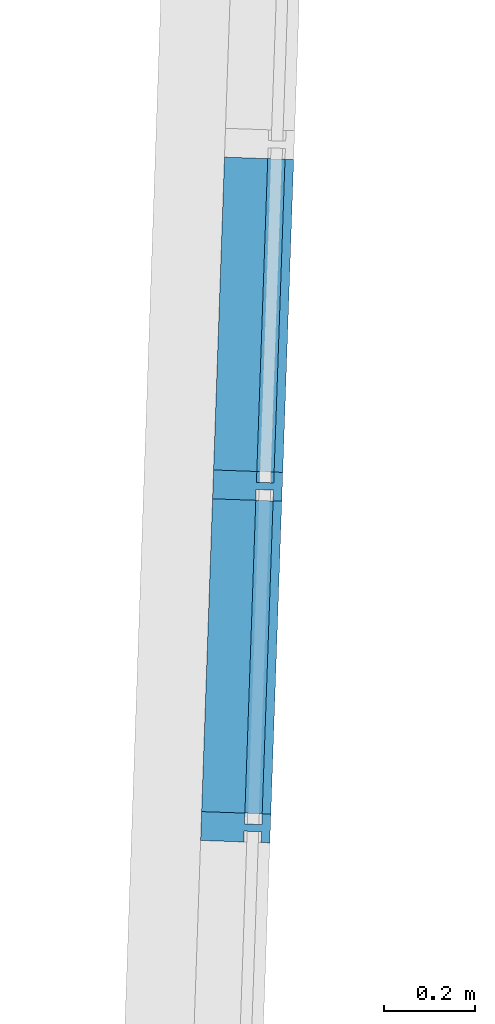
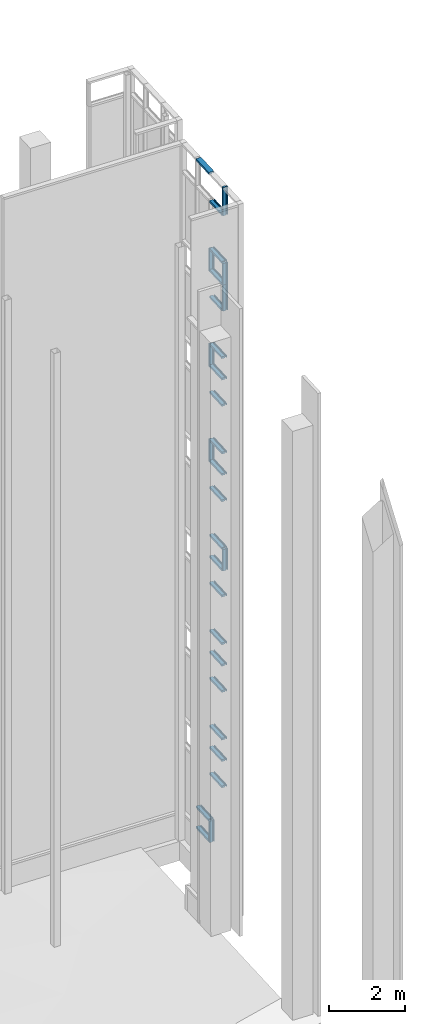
# One storey, part 15 of 44: 30 members, 1 element without a shape of its own.
"""IFC2X3 building model written with IfcOpenShell, lengths in feet."""

import ifcopenshell
import ifcopenshell.guid

model = None  # the IFC model being written
_history = None  # IfcOwnerHistory: only IFC2X3 demands one
_inside = {}  # id of a spatial element -> (the spatial element, [elements in it])
_under = {}  # id of a project, library or spatial element -> (it, [spatial elements below it])
_declared = {}  # id of a project -> (the project, [libraries it declares])
_typed = {}  # id of a type object -> (the type object, [elements of that type])
_made_of = {}  # id of a material, layer set ... -> (it, [elements and type objects made of it])


def new_model(schema):
    """Start an empty IFC model of exactly this schema.

    Asked for "IFC4X3", IfcOpenShell would pick the latest addendum, in which some entities
    have other attributes; the version numbers below select the first issue.
    IFC2X3 requires an IfcOwnerHistory on every rooted entity: one is made here for all.
    """
    global model, _history
    if schema == "IFC4X3":
        model = ifcopenshell.file(schema_version=(4, 3, 0, 0))
    else:
        model = ifcopenshell.file(schema=schema)
    _inside.clear()
    _under.clear()
    _declared.clear()
    _typed.clear()
    _made_of.clear()
    _history = None
    if model.schema == "IFC2X3":
        org = make("IfcOrganization", Name="unknown")
        user = make(
            "IfcPersonAndOrganization",
            ThePerson=make("IfcPerson", FamilyName="unknown"),
            TheOrganization=org,
        )
        app = make(
            "IfcApplication",
            ApplicationDeveloper=org,
            Version="unknown",
            ApplicationFullName="unknown",
            ApplicationIdentifier="unknown",
        )
        _history = make(
            "IfcOwnerHistory",
            OwningUser=user,
            OwningApplication=app,
            ChangeAction="ADDED",
            CreationDate=0,
        )
    return model


def make(cls, **values):
    """One entity of the class cls with the attributes given. An attribute that is None is left unset."""
    return model.create_entity(
        cls, **{name: value for name, value in values.items() if value is not None}
    )


def entity(cls, *values):
    """Any entity or typed value of the class cls, its attributes in the order of the schema. None: left unset."""
    e = model.create_entity(cls)
    for i, value in enumerate(values):
        if value is not None:
            e[i] = value
    return e


def rooted(cls, **values):
    """An entity with a GlobalId (a new one), such as an element, a storey or a relation."""
    return make(cls, GlobalId=ifcopenshell.guid.new(), OwnerHistory=_history, **values)


def si_unit(unit_type, name, prefix=None):
    """IfcSIUnit, for example si_unit("LENGTHUNIT", "METRE", prefix="MILLI")."""
    return make("IfcSIUnit", UnitType=unit_type, Prefix=prefix, Name=name)


def converted_unit(unit_type, name, factor, base, dimensions=None, offset=None):
    """IfcConversionBasedUnit, such as the inch: factor (a typed value) times the base unit."""
    return make(
        "IfcConversionBasedUnit"
        if offset is None
        else "IfcConversionBasedUnitWithOffset",
        ConversionOffset=offset,
        Dimensions=None
        if dimensions is None
        else entity("IfcDimensionalExponents", *dimensions),
        UnitType=unit_type,
        Name=name,
        ConversionFactor=make(
            "IfcMeasureWithUnit", ValueComponent=factor, UnitComponent=base
        ),
    )


def derived_unit(unit_type, elements):
    """IfcDerivedUnit: a product of units, each with its exponent."""
    return make(
        "IfcDerivedUnit",
        Elements=[
            make("IfcDerivedUnitElement", Unit=unit, Exponent=power)
            for unit, power in elements
        ],
        UnitType=unit_type,
    )


def assignment(units):
    """IfcUnitAssignment: the units of a project."""
    return None if units is None else make("IfcUnitAssignment", Units=units)


def point(xyz):
    """IfcCartesianPoint."""
    return None if xyz is None else make("IfcCartesianPoint", Coordinates=xyz)


def direction(xyz):
    """IfcDirection."""
    return None if xyz is None else make("IfcDirection", DirectionRatios=xyz)


def frame(location, z_axis=None, x_axis=None):
    """IfcAxis2Placement3D, a coordinate frame: its origin and axes. An axis left out is left unset."""
    return make(
        "IfcAxis2Placement3D",
        Location=point(location),
        Axis=direction(z_axis),
        RefDirection=direction(x_axis),
    )


def origin():
    """The frame at (0, 0, 0) with its axes left unset."""
    return frame((0.0, 0.0, 0.0))


def place(relative_to, where):
    """IfcLocalPlacement: puts the frame where relative to a parent placement (None: the world)."""
    return make(
        "IfcLocalPlacement", PlacementRelTo=relative_to, RelativePlacement=where
    )


def context(
    kind, dimensions, precision=None, world=None, true_north=None, identifier=None
):
    """IfcGeometricRepresentationContext, for example the 3D "Model" context."""
    return make(
        "IfcGeometricRepresentationContext",
        ContextIdentifier=identifier,
        ContextType=kind,
        CoordinateSpaceDimension=dimensions,
        Precision=precision,
        WorldCoordinateSystem=world,
        TrueNorth=true_north,
    )


def subcontext(parent, identifier, kind, view, scale=None):
    """IfcGeometricRepresentationSubContext, for example "Body" below "Model"."""
    return make(
        "IfcGeometricRepresentationSubContext",
        ContextIdentifier=identifier,
        ContextType=kind,
        ParentContext=parent,
        TargetScale=scale,
        TargetView=view,
    )


def project(units=None, contexts=None):
    """IfcProject with its units and contexts."""
    return rooted(
        "IfcProject",
        Name="project",
        RepresentationContexts=contexts,
        UnitsInContext=assignment(units),
    )


def spatial(cls, under=None, at=None, **own):
    """A site, building, storey or space (cls), placed at a placement, below another one or the project."""
    s = rooted(cls, ObjectPlacement=at, **own)
    if under is not None:
        _under.setdefault(under.id(), (under, []))[1].append(s)
    return s


def polyline(points):
    """IfcPolyline through the points."""
    return make("IfcPolyline", Points=[point(p) for p in points])


def outline(outer, holes=None, kind="AREA"):
    """IfcArbitraryClosedProfileDef: a profile drawn as a closed curve; with holes, ...WithVoids."""
    if holes is None:
        return make("IfcArbitraryClosedProfileDef", ProfileType=kind, OuterCurve=outer)
    return make(
        "IfcArbitraryProfileDefWithVoids",
        ProfileType=kind,
        OuterCurve=outer,
        InnerCurves=holes,
    )


def extrude(swept, where, along, depth):
    """IfcExtrudedAreaSolid: the profile swept, set in the frame where, extruded along a direction by depth."""
    return make(
        "IfcExtrudedAreaSolid",
        SweptArea=swept,
        Position=where,
        ExtrudedDirection=direction(along),
        Depth=depth,
    )


def shape(context_of_items, identifier, shape_type, items):
    """IfcShapeRepresentation: the items that make up one representation, for example the "Body"."""
    return make(
        "IfcShapeRepresentation",
        ContextOfItems=context_of_items,
        RepresentationIdentifier=identifier,
        RepresentationType=shape_type,
        Items=items,
    )


def material(Name=None, Category=None):
    """IfcMaterial."""
    return make("IfcMaterial", Name=Name, Category=Category)


def made_of(thing, what):
    """Note that an element or type object is made of a material, layer set ...; save() writes the relation."""
    if what is not None:
        _made_of.setdefault(what.id(), (what, []))[1].append(thing)
    return thing


def type_object(cls, material=None, **own):
    """A type object (cls), such as IfcWallType, which elements share."""
    return made_of(rooted(cls, **own), material)


def element(
    cls,
    number,
    at=None,
    inside=None,
    cuts=None,
    type_object=None,
    material=None,
    context=None,
    identifier="Body",
    shape_type=None,
    held_by="IfcProductDefinitionShape",
    body=None,
    shapes=None,
    **own,
):
    """One element of the class cls, such as IfcWall. Its Tag is "e" and its number.

    at: its placement. inside: the storey or other place that contains it. cuts: it is an
    opening in that element (IfcRelVoidsElement). A single representation is given by context,
    identifier, shape_type and body (its items); several are given by shapes. held_by: the class
    of the entity that holds the representations. save() writes the other relations.
    """
    e = rooted(cls, Tag="e%d" % number, ObjectPlacement=at, **own)
    if body is not None:
        shapes = [shape(context, identifier, shape_type, body)]
    if shapes is not None:
        e.Representation = make(held_by, Representations=shapes)
    if inside is not None:
        _inside.setdefault(inside.id(), (inside, []))[1].append(e)
    if cuts is not None:
        rooted(
            "IfcRelVoidsElement", RelatingBuildingElement=cuts, RelatedOpeningElement=e
        )
    if type_object is not None:
        _typed.setdefault(type_object.id(), (type_object, []))[1].append(e)
    return made_of(e, material)


def aggregate(whole, parts):
    """IfcRelAggregates: a whole, such as a stair, and the parts it consists of."""
    return rooted("IfcRelAggregates", RelatingObject=whole, RelatedObjects=parts)


def save(model, path):
    """Write the relations noted so far, then the file.

    IfcRelAggregates (storeys below a building ...), IfcRelContainedInSpatialStructure (elements
    in a storey), IfcRelDefinesByType, IfcRelAssociatesMaterial and IfcRelDeclares: one each for
    every whole, place, type object, material and project.
    """
    for whole, parts in _under.values():
        aggregate(whole, parts)
    for where, things in _inside.values():
        rooted(
            "IfcRelContainedInSpatialStructure",
            RelatedElements=things,
            RelatingStructure=where,
        )
    for kind, things in _typed.values():
        rooted("IfcRelDefinesByType", RelatedObjects=things, RelatingType=kind)
    for what, things in _made_of.values():
        rooted("IfcRelAssociatesMaterial", RelatedObjects=things, RelatingMaterial=what)
    for by, libraries in _declared.values():
        rooted("IfcRelDeclares", RelatingContext=by, RelatedDefinitions=libraries)
    model.write(path)


model = new_model("IFC2X3")

# Units and contexts
model_context = context("Model", 3, precision=0.0001, world=origin(), true_north=direction((0.999390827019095, 0.0348994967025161)))
body_context = subcontext(model_context, "Body", "Model", "MODEL_VIEW")
ifc_project = project(units=[converted_unit("LENGTHUNIT", "FOOT", entity("IfcRatioMeasure", 0.3048), si_unit("LENGTHUNIT", "METRE"), dimensions=[1, 0, 0, 0, 0, 0, 0]), converted_unit("AREAUNIT", "SQUARE FOOT", entity("IfcRatioMeasure", 0.09290304), si_unit("AREAUNIT", "SQUARE_METRE"), dimensions=[2, 0, 0, 0, 0, 0, 0]), converted_unit("VOLUMEUNIT", "CUBIC FOOT", entity("IfcRatioMeasure", 0.028316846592), si_unit("VOLUMEUNIT", "CUBIC_METRE"), dimensions=[3, 0, 0, 0, 0, 0, 0]), converted_unit("PLANEANGLEUNIT", "DEGREE", entity("IfcRatioMeasure", 0.0174532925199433), si_unit("PLANEANGLEUNIT", "RADIAN"), dimensions=[0, 0, 0, 0, 0, 0, 0]), si_unit("MASSUNIT", "GRAM", prefix="KILO"), si_unit("TIMEUNIT", "SECOND"), si_unit("FREQUENCYUNIT", "HERTZ"), si_unit("THERMODYNAMICTEMPERATUREUNIT", "DEGREE_CELSIUS"), derived_unit("THERMALTRANSMITTANCEUNIT", [(si_unit("MASSUNIT", "GRAM", prefix="KILO"), 1), (si_unit("THERMODYNAMICTEMPERATUREUNIT", "KELVIN"), -1), (si_unit("TIMEUNIT", "SECOND"), -3)]), derived_unit("VOLUMETRICFLOWRATEUNIT", [(si_unit("LENGTHUNIT", "METRE"), 3), (si_unit("TIMEUNIT", "SECOND"), -1)]), si_unit("ELECTRICCURRENTUNIT", "AMPERE"), si_unit("ELECTRICVOLTAGEUNIT", "VOLT"), si_unit("POWERUNIT", "WATT"), si_unit("FORCEUNIT", "NEWTON"), si_unit("ILLUMINANCEUNIT", "LUX"), si_unit("LUMINOUSFLUXUNIT", "LUMEN"), si_unit("LUMINOUSINTENSITYUNIT", "CANDELA"), derived_unit("USERDEFINED", [(si_unit("MASSUNIT", "GRAM", prefix="KILO"), -1), (si_unit("LENGTHUNIT", "METRE"), -2), (si_unit("TIMEUNIT", "SECOND"), 3), (si_unit("LUMINOUSFLUXUNIT", "LUMEN"), 1)]), derived_unit("LINEARVELOCITYUNIT", [(si_unit("LENGTHUNIT", "METRE"), 1), (si_unit("TIMEUNIT", "SECOND"), -1)]), si_unit("PRESSUREUNIT", "PASCAL"), derived_unit("USERDEFINED", [(si_unit("LENGTHUNIT", "METRE"), -2), (si_unit("MASSUNIT", "GRAM", prefix="KILO"), 1), (si_unit("TIMEUNIT", "SECOND"), -2)])], contexts=[model_context])

# Site, building, storey
site_placement = place(None, frame((892.518771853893, 322.38689265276, 0.00393700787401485), z_axis=(0.0, 0.0, 1.0), x_axis=(0.0348994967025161, 0.999390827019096, 0.0)))
site = spatial("IfcSite", under=ifc_project, at=site_placement, Name="Default", CompositionType="ELEMENT")
building_placement = place(site_placement, origin())
building = spatial("IfcBuilding", under=site, at=building_placement, CompositionType="ELEMENT")
storey_placement = place(building_placement, frame((0.0, 0.0, 544.75)))
storey = spatial("IfcBuildingStorey", under=building, at=storey_placement, Name="Exist Garage - Ground Level", CompositionType="ELEMENT", Elevation=544.75)

# Curtain wall, members
curtain_wall_type = type_object("IfcCurtainWallType", Name="Curtain Wall:(Existing) Curtainwall - Blank", PredefinedType="NOTDEFINED")
curtain_wall_placement = place(storey_placement, frame((0.0, 0.0, -544.75)))
curtain_wall = element("IfcCurtainWall", 1, at=curtain_wall_placement, inside=storey, type_object=curtain_wall_type, Name="Curtain Wall:(Existing) Curtainwall - Blank", ObjectType="Curtain Wall:(Existing) Curtainwall - Blank")
ifc_material = material(Name="Metal - Aluminum")
member_1_placement = place(curtain_wall_placement, frame((0.0, 0.0, 544.75)))
member_1 = element("IfcMember", 2, at=member_1_placement, material=ifc_material, Name="Curtain Wall:(Existing) Curtainwall - Blank", ObjectType="Curtain Wall:(Existing) Curtainwall - Blank", context=body_context, shape_type="SweptSolid", body=[
    extrude(outline(polyline([(-0.13671875, -0.187500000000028), (0.0716145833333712, -0.187500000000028), (0.0716145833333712, -0.125000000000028), (-0.00651041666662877, -0.125000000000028), (-0.00651041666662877, 0.0), (0.0716145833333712, 0.0), (0.0716145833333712, 0.312499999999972), (-0.13671875, 0.312499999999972), (-0.13671875, -0.187500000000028)])), frame((96.6564634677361, 232.451453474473, 72.3216145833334), z_axis=(1.0, 0.0, 0.0), x_axis=(0.0, 0.0, -1.0)), (0.0, 0.0, 1.0), 2.36458333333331),
])
member_2_placement = place(curtain_wall_placement, frame((0.0, 0.0, 544.75)))
member_2 = element("IfcMember", 3, at=member_2_placement, material=ifc_material, Name="Curtain Wall:(Existing) Curtainwall - Blank", ObjectType="Curtain Wall:(Existing) Curtainwall - Blank", context=body_context, shape_type="SweptSolid", body=[
    extrude(outline(polyline([(-0.0716145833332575, -0.312499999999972), (0.136718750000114, -0.312499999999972), (0.136718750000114, 0.187500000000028), (-0.0716145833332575, 0.187500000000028), (-0.0716145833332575, 0.125000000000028), (0.00651041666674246, 0.125000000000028), (0.00651041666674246, 0.0), (-0.0716145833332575, 0.0), (-0.0716145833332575, -0.312499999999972)])), frame((99.0210468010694, 232.451453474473, 2.38671875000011), z_axis=(-1.0, 0.0, 0.0), x_axis=(0.0, 0.0, -1.0)), (0.0, 0.0, 1.0), 2.26041666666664),
])
member_3_placement = place(curtain_wall_placement, frame((0.0, 0.0, 544.75)))
member_3 = element("IfcMember", 4, at=member_3_placement, material=ifc_material, Name="Curtain Wall:(Existing) Curtainwall - Blank", ObjectType="Curtain Wall:(Existing) Curtainwall - Blank", context=body_context, shape_type="SweptSolid", body=[
    extrude(outline(polyline([(-0.104166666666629, -0.166666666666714), (0.104166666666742, -0.166666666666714), (0.104166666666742, -0.104166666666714), (0.0260416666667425, -0.104166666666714), (0.0260416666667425, 0.020833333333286), (0.104166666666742, 0.020833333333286), (0.104166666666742, 0.333333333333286), (-0.104166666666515, 0.333333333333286), (-0.104166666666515, 0.020833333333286), (-0.0260416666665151, 0.020833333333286), (-0.0260416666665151, -0.104166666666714), (-0.104166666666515, -0.104166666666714), (-0.104166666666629, -0.166666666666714)])), frame((96.7606301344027, 232.43062014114, 4.50000000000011), z_axis=(1.0, 0.0, 0.0), x_axis=(0.0, 0.0, -1.0)), (0.0, 0.0, 1.0), 2.26041666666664),
])
member_4_placement = place(curtain_wall_placement, frame((0.0, 0.0, 544.75)))
member_4 = element("IfcMember", 5, at=member_4_placement, material=ifc_material, Name="Curtain Wall:(Existing) Curtainwall - Blank", ObjectType="Curtain Wall:(Existing) Curtainwall - Blank", context=body_context, shape_type="SweptSolid", body=[
    extrude(outline(polyline([(-0.104166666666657, -0.333333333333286), (0.104166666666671, -0.333333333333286), (0.104166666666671, -0.020833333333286), (0.0260416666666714, -0.020833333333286), (0.0260416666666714, 0.104166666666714), (0.104166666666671, 0.104166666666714), (0.104166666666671, 0.166666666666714), (-0.104166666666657, 0.166666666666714), (-0.104166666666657, 0.104166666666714), (-0.0260416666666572, 0.104166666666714), (-0.0260416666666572, -0.020833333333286), (-0.104166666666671, -0.020833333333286), (-0.104166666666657, -0.333333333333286)])), frame((96.6564634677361, 232.43062014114, 52.1458333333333), z_axis=(0.0, 0.0, 1.0), x_axis=(-1.0, 0.0, 0.0)), (0.0, 0.0, 1.0), 2.35416666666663),
])
member_5_placement = place(curtain_wall_placement, frame((0.0, 0.0, 544.75)))
member_5 = element("IfcMember", 6, at=member_5_placement, material=ifc_material, Name="Curtain Wall:(Existing) Curtainwall - Blank", ObjectType="Curtain Wall:(Existing) Curtainwall - Blank", context=body_context, shape_type="SweptSolid", body=[
    extrude(outline(polyline([(-0.104166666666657, -0.333333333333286), (0.104166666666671, -0.333333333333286), (0.104166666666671, -0.020833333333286), (0.0260416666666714, -0.020833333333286), (0.0260416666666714, 0.104166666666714), (0.104166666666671, 0.104166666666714), (0.104166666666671, 0.166666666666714), (-0.104166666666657, 0.166666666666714), (-0.104166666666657, 0.104166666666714), (-0.0260416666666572, 0.104166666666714), (-0.0260416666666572, -0.020833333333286), (-0.104166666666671, -0.020833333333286), (-0.104166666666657, -0.333333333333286)])), frame((96.6564634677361, 232.43062014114, 62.1458333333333), z_axis=(0.0, 0.0, 1.0), x_axis=(-1.0, 0.0, 0.0)), (0.0, 0.0, 1.0), 2.35416666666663),
])
member_6_placement = place(curtain_wall_placement, frame((0.0, 0.0, 544.75)))
member_6 = element("IfcMember", 7, at=member_6_placement, material=ifc_material, Name="Curtain Wall:(Existing) Curtainwall - Blank", ObjectType="Curtain Wall:(Existing) Curtainwall - Blank", context=body_context, shape_type="SweptSolid", body=[
    extrude(outline(polyline([(-0.104166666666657, -0.333333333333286), (0.104166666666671, -0.333333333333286), (0.104166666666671, -0.020833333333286), (0.0260416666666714, -0.020833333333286), (0.0260416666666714, 0.104166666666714), (0.104166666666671, 0.104166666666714), (0.104166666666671, 0.166666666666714), (-0.104166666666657, 0.166666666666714), (-0.104166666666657, 0.104166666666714), (-0.0260416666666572, 0.104166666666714), (-0.0260416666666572, -0.020833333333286), (-0.104166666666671, -0.020833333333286), (-0.104166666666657, -0.333333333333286)])), frame((96.6564634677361, 232.43062014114, 42.1458333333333), z_axis=(0.0, 0.0, 1.0), x_axis=(-1.0, 0.0, 0.0)), (0.0, 0.0, 1.0), 2.35416666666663),
])
member_7_placement = place(curtain_wall_placement, frame((0.0, 0.0, 544.75)))
member_7 = element("IfcMember", 8, at=member_7_placement, material=ifc_material, Name="Curtain Wall:(Existing) Curtainwall - Blank", ObjectType="Curtain Wall:(Existing) Curtainwall - Blank", context=body_context, shape_type="SweptSolid", body=[
    extrude(outline(polyline([(-0.104166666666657, -0.333333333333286), (0.104166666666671, -0.333333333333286), (0.104166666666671, -0.020833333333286), (0.0260416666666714, -0.020833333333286), (0.0260416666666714, 0.104166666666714), (0.104166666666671, 0.104166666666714), (0.104166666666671, 0.166666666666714), (-0.104166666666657, 0.166666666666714), (-0.104166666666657, 0.104166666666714), (-0.0260416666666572, 0.104166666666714), (-0.0260416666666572, -0.020833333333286), (-0.104166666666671, -0.020833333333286), (-0.104166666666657, -0.333333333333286)])), frame((96.6564634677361, 232.43062014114, 2.25), z_axis=(0.0, 0.0, 1.0), x_axis=(-1.0, 0.0, 0.0)), (0.0, 0.0, 1.0), 2.25),
])
member_8_placement = place(curtain_wall_placement, frame((0.0, 0.0, 544.75)))
member_8 = element("IfcMember", 9, at=member_8_placement, material=ifc_material, Name="Curtain Wall:(Existing) Curtainwall - Blank", ObjectType="Curtain Wall:(Existing) Curtainwall - Blank", context=body_context, shape_type="SweptSolid", body=[
    extrude(outline(polyline([(-0.104166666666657, -0.333333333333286), (0.104166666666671, -0.333333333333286), (0.104166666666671, -0.020833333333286), (0.0260416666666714, -0.020833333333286), (0.0260416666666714, 0.104166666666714), (0.104166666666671, 0.104166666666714), (0.104166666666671, 0.166666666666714), (-0.104166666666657, 0.166666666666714), (-0.104166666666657, 0.104166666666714), (-0.0260416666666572, 0.104166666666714), (-0.0260416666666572, -0.020833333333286), (-0.104166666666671, -0.020833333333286), (-0.104166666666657, -0.333333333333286)])), frame((94.1877134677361, 232.43062014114, 32.25), z_axis=(0.0, 0.0, 1.0), x_axis=(-1.0, 0.0, 0.0)), (0.0, 0.0, 1.0), 2.25),
])
member_9_placement = place(curtain_wall_placement, frame((0.0, 0.0, 544.75)))
member_9 = element("IfcMember", 10, at=member_9_placement, material=ifc_material, Name="Curtain Wall:(Existing) Curtainwall - Blank", ObjectType="Curtain Wall:(Existing) Curtainwall - Blank", context=body_context, shape_type="SweptSolid", body=[
    extrude(outline(polyline([(-0.104166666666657, -0.333333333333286), (0.104166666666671, -0.333333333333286), (0.104166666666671, -0.020833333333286), (0.0260416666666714, -0.020833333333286), (0.0260416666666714, 0.104166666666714), (0.104166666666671, 0.104166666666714), (0.104166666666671, 0.166666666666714), (-0.104166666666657, 0.166666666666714), (-0.104166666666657, 0.104166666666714), (-0.0260416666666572, 0.104166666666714), (-0.0260416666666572, -0.020833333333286), (-0.104166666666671, -0.020833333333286), (-0.104166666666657, -0.333333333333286)])), frame((94.1877134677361, 232.43062014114, 59.5), z_axis=(0.0, 0.0, 1.0), x_axis=(-1.0, 0.0, 0.0)), (0.0, 0.0, 1.0), 2.75),
])
member_10_placement = place(curtain_wall_placement, frame((0.0, 0.0, 544.75)))
member_10 = element("IfcMember", 11, at=member_10_placement, material=ifc_material, Name="Curtain Wall:(Existing) Curtainwall - Blank", ObjectType="Curtain Wall:(Existing) Curtainwall - Blank", context=body_context, shape_type="SweptSolid", body=[
    extrude(outline(polyline([(-0.104166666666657, -0.333333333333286), (0.104166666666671, -0.333333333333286), (0.104166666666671, -0.020833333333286), (0.0260416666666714, -0.020833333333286), (0.0260416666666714, 0.104166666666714), (0.104166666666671, 0.104166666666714), (0.104166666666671, 0.166666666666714), (-0.104166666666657, 0.166666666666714), (-0.104166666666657, 0.104166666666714), (-0.0260416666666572, 0.104166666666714), (-0.0260416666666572, -0.020833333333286), (-0.104166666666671, -0.020833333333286), (-0.104166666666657, -0.333333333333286)])), frame((94.1877134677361, 232.43062014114, 62.25), z_axis=(0.0, 0.0, 1.0), x_axis=(-1.0, 0.0, 0.0)), (0.0, 0.0, 1.0), 2.25),
])
member_11_placement = place(curtain_wall_placement, frame((0.0, 0.0, 544.75)))
member_11 = element("IfcMember", 12, at=member_11_placement, material=ifc_material, Name="Curtain Wall:(Existing) Curtainwall - Blank", ObjectType="Curtain Wall:(Existing) Curtainwall - Blank", context=body_context, shape_type="SweptSolid", body=[
    extrude(outline(polyline([(-0.104166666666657, -0.333333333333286), (0.104166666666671, -0.333333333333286), (0.104166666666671, -0.020833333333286), (0.0260416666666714, -0.020833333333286), (0.0260416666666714, 0.104166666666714), (0.104166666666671, 0.104166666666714), (0.104166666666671, 0.166666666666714), (-0.104166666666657, 0.166666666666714), (-0.104166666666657, 0.104166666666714), (-0.0260416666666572, 0.104166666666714), (-0.0260416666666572, -0.020833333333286), (-0.104166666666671, -0.020833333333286), (-0.104166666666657, -0.333333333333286)])), frame((94.1877134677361, 232.43062014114, 69.5), z_axis=(0.0, 0.0, 1.0), x_axis=(-1.0, 0.0, 0.0)), (0.0, 0.0, 1.0), 2.95833333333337),
])
member_12_placement = place(curtain_wall_placement, frame((0.0, 0.0, 544.75)))
member_12 = element("IfcMember", 13, at=member_12_placement, material=ifc_material, Name="Curtain Wall:(Existing) Curtainwall - Blank", ObjectType="Curtain Wall:(Existing) Curtainwall - Blank", context=body_context, shape_type="SweptSolid", body=[
    extrude(outline(polyline([(-0.104166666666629, -0.166666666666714), (0.104166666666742, -0.166666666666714), (0.104166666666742, -0.104166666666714), (0.0260416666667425, -0.104166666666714), (0.0260416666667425, 0.020833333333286), (0.104166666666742, 0.020833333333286), (0.104166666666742, 0.333333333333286), (-0.104166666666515, 0.333333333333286), (-0.104166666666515, 0.020833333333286), (-0.0260416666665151, 0.020833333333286), (-0.0260416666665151, -0.104166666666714), (-0.104166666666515, -0.104166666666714), (-0.104166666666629, -0.166666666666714)])), frame((94.2918801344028, 232.43062014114, 9.50000000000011), z_axis=(1.0, 0.0, 0.0), x_axis=(0.0, 0.0, -1.0)), (0.0, 0.0, 1.0), 2.26041666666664),
])
member_13_placement = place(curtain_wall_placement, frame((0.0, 0.0, 544.75)))
member_13 = element("IfcMember", 14, at=member_13_placement, material=ifc_material, Name="Curtain Wall:(Existing) Curtainwall - Blank", ObjectType="Curtain Wall:(Existing) Curtainwall - Blank", context=body_context, shape_type="SweptSolid", body=[
    extrude(outline(polyline([(-0.104166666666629, -0.166666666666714), (0.104166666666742, -0.166666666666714), (0.104166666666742, -0.104166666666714), (0.0260416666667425, -0.104166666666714), (0.0260416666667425, 0.020833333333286), (0.104166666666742, 0.020833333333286), (0.104166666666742, 0.333333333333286), (-0.104166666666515, 0.333333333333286), (-0.104166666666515, 0.020833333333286), (-0.0260416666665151, 0.020833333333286), (-0.0260416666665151, -0.104166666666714), (-0.104166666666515, -0.104166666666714), (-0.104166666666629, -0.166666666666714)])), frame((94.2918801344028, 232.43062014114, 12.2500000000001), z_axis=(1.0, 0.0, 0.0), x_axis=(0.0, 0.0, -1.0)), (0.0, 0.0, 1.0), 2.26041666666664),
])
member_14_placement = place(curtain_wall_placement, frame((0.0, 0.0, 544.75)))
member_14 = element("IfcMember", 15, at=member_14_placement, material=ifc_material, Name="Curtain Wall:(Existing) Curtainwall - Blank", ObjectType="Curtain Wall:(Existing) Curtainwall - Blank", context=body_context, shape_type="SweptSolid", body=[
    extrude(outline(polyline([(-0.104166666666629, -0.166666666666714), (0.104166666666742, -0.166666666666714), (0.104166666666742, -0.104166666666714), (0.0260416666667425, -0.104166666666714), (0.0260416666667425, 0.020833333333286), (0.104166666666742, 0.020833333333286), (0.104166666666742, 0.333333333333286), (-0.104166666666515, 0.333333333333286), (-0.104166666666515, 0.020833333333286), (-0.0260416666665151, 0.020833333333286), (-0.0260416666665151, -0.104166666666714), (-0.104166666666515, -0.104166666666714), (-0.104166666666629, -0.166666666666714)])), frame((94.2918801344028, 232.43062014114, 14.5000000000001), z_axis=(1.0, 0.0, 0.0), x_axis=(0.0, 0.0, -1.0)), (0.0, 0.0, 1.0), 2.26041666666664),
])
member_15_placement = place(curtain_wall_placement, frame((0.0, 0.0, 544.75)))
member_15 = element("IfcMember", 16, at=member_15_placement, material=ifc_material, Name="Curtain Wall:(Existing) Curtainwall - Blank", ObjectType="Curtain Wall:(Existing) Curtainwall - Blank", context=body_context, shape_type="SweptSolid", body=[
    extrude(outline(polyline([(-0.104166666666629, -0.166666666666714), (0.104166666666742, -0.166666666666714), (0.104166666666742, -0.104166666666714), (0.0260416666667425, -0.104166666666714), (0.0260416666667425, 0.020833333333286), (0.104166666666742, 0.020833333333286), (0.104166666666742, 0.333333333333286), (-0.104166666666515, 0.333333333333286), (-0.104166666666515, 0.020833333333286), (-0.0260416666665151, 0.020833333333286), (-0.0260416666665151, -0.104166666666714), (-0.104166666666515, -0.104166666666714), (-0.104166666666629, -0.166666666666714)])), frame((94.2918801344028, 232.43062014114, 19.5000000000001), z_axis=(1.0, 0.0, 0.0), x_axis=(0.0, 0.0, -1.0)), (0.0, 0.0, 1.0), 2.26041666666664),
])
member_16_placement = place(curtain_wall_placement, frame((0.0, 0.0, 544.75)))
member_16 = element("IfcMember", 17, at=member_16_placement, material=ifc_material, Name="Curtain Wall:(Existing) Curtainwall - Blank", ObjectType="Curtain Wall:(Existing) Curtainwall - Blank", context=body_context, shape_type="SweptSolid", body=[
    extrude(outline(polyline([(-0.104166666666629, -0.166666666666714), (0.104166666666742, -0.166666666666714), (0.104166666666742, -0.104166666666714), (0.0260416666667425, -0.104166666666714), (0.0260416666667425, 0.020833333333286), (0.104166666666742, 0.020833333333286), (0.104166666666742, 0.333333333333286), (-0.104166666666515, 0.333333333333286), (-0.104166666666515, 0.020833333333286), (-0.0260416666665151, 0.020833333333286), (-0.0260416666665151, -0.104166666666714), (-0.104166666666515, -0.104166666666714), (-0.104166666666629, -0.166666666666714)])), frame((94.2918801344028, 232.43062014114, 22.2500000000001), z_axis=(1.0, 0.0, 0.0), x_axis=(0.0, 0.0, -1.0)), (0.0, 0.0, 1.0), 2.26041666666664),
])
member_17_placement = place(curtain_wall_placement, frame((0.0, 0.0, 544.75)))
member_17 = element("IfcMember", 18, at=member_17_placement, material=ifc_material, Name="Curtain Wall:(Existing) Curtainwall - Blank", ObjectType="Curtain Wall:(Existing) Curtainwall - Blank", context=body_context, shape_type="SweptSolid", body=[
    extrude(outline(polyline([(-0.104166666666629, -0.166666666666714), (0.104166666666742, -0.166666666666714), (0.104166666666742, -0.104166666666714), (0.0260416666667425, -0.104166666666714), (0.0260416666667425, 0.020833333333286), (0.104166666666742, 0.020833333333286), (0.104166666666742, 0.333333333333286), (-0.104166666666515, 0.333333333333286), (-0.104166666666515, 0.020833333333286), (-0.0260416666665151, 0.020833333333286), (-0.0260416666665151, -0.104166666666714), (-0.104166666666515, -0.104166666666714), (-0.104166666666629, -0.166666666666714)])), frame((94.2918801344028, 232.43062014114, 24.5000000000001), z_axis=(1.0, 0.0, 0.0), x_axis=(0.0, 0.0, -1.0)), (0.0, 0.0, 1.0), 2.26041666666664),
])
member_18_placement = place(curtain_wall_placement, frame((0.0, 0.0, 544.75)))
member_18 = element("IfcMember", 19, at=member_18_placement, material=ifc_material, Name="Curtain Wall:(Existing) Curtainwall - Blank", ObjectType="Curtain Wall:(Existing) Curtainwall - Blank", context=body_context, shape_type="SweptSolid", body=[
    extrude(outline(polyline([(-0.104166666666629, -0.166666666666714), (0.104166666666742, -0.166666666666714), (0.104166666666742, -0.104166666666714), (0.0260416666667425, -0.104166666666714), (0.0260416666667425, 0.020833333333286), (0.104166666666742, 0.020833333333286), (0.104166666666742, 0.333333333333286), (-0.104166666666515, 0.333333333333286), (-0.104166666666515, 0.020833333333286), (-0.0260416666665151, 0.020833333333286), (-0.0260416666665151, -0.104166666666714), (-0.104166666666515, -0.104166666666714), (-0.104166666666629, -0.166666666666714)])), frame((94.2918801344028, 232.43062014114, 29.5000000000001), z_axis=(1.0, 0.0, 0.0), x_axis=(0.0, 0.0, -1.0)), (0.0, 0.0, 1.0), 2.26041666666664),
])
member_19_placement = place(curtain_wall_placement, frame((0.0, 0.0, 544.75)))
member_19 = element("IfcMember", 20, at=member_19_placement, material=ifc_material, Name="Curtain Wall:(Existing) Curtainwall - Blank", ObjectType="Curtain Wall:(Existing) Curtainwall - Blank", context=body_context, shape_type="SweptSolid", body=[
    extrude(outline(polyline([(-0.104166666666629, -0.166666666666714), (0.104166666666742, -0.166666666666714), (0.104166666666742, -0.104166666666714), (0.0260416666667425, -0.104166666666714), (0.0260416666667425, 0.020833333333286), (0.104166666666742, 0.020833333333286), (0.104166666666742, 0.333333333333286), (-0.104166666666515, 0.333333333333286), (-0.104166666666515, 0.020833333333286), (-0.0260416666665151, 0.020833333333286), (-0.0260416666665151, -0.104166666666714), (-0.104166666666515, -0.104166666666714), (-0.104166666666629, -0.166666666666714)])), frame((94.2918801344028, 232.43062014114, 32.2500000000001), z_axis=(1.0, 0.0, 0.0), x_axis=(0.0, 0.0, -1.0)), (0.0, 0.0, 1.0), 2.26041666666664),
])
member_20_placement = place(curtain_wall_placement, frame((0.0, 0.0, 544.75)))
member_20 = element("IfcMember", 21, at=member_20_placement, material=ifc_material, Name="Curtain Wall:(Existing) Curtainwall - Blank", ObjectType="Curtain Wall:(Existing) Curtainwall - Blank", context=body_context, shape_type="SweptSolid", body=[
    extrude(outline(polyline([(-0.104166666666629, -0.166666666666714), (0.104166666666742, -0.166666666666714), (0.104166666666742, -0.104166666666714), (0.0260416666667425, -0.104166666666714), (0.0260416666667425, 0.020833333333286), (0.104166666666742, 0.020833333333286), (0.104166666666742, 0.333333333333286), (-0.104166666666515, 0.333333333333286), (-0.104166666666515, 0.020833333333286), (-0.0260416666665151, 0.020833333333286), (-0.0260416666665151, -0.104166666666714), (-0.104166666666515, -0.104166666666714), (-0.104166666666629, -0.166666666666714)])), frame((94.2918801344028, 232.43062014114, 34.5000000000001), z_axis=(1.0, 0.0, 0.0), x_axis=(0.0, 0.0, -1.0)), (0.0, 0.0, 1.0), 2.26041666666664),
])
member_21_placement = place(curtain_wall_placement, frame((0.0, 0.0, 544.75)))
member_21 = element("IfcMember", 22, at=member_21_placement, material=ifc_material, Name="Curtain Wall:(Existing) Curtainwall - Blank", ObjectType="Curtain Wall:(Existing) Curtainwall - Blank", context=body_context, shape_type="SweptSolid", body=[
    extrude(outline(polyline([(-0.104166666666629, -0.166666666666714), (0.104166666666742, -0.166666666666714), (0.104166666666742, -0.104166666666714), (0.0260416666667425, -0.104166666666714), (0.0260416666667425, 0.020833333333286), (0.104166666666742, 0.020833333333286), (0.104166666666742, 0.333333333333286), (-0.104166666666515, 0.333333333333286), (-0.104166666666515, 0.020833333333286), (-0.0260416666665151, 0.020833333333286), (-0.0260416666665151, -0.104166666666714), (-0.104166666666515, -0.104166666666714), (-0.104166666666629, -0.166666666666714)])), frame((94.2918801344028, 232.43062014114, 39.5000000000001), z_axis=(1.0, 0.0, 0.0), x_axis=(0.0, 0.0, -1.0)), (0.0, 0.0, 1.0), 2.26041666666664),
])
member_22_placement = place(curtain_wall_placement, frame((0.0, 0.0, 544.75)))
member_22 = element("IfcMember", 23, at=member_22_placement, material=ifc_material, Name="Curtain Wall:(Existing) Curtainwall - Blank", ObjectType="Curtain Wall:(Existing) Curtainwall - Blank", context=body_context, shape_type="SweptSolid", body=[
    extrude(outline(polyline([(-0.104166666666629, -0.166666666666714), (0.104166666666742, -0.166666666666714), (0.104166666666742, -0.104166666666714), (0.0260416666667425, -0.104166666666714), (0.0260416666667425, 0.020833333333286), (0.104166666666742, 0.020833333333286), (0.104166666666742, 0.333333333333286), (-0.104166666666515, 0.333333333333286), (-0.104166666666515, 0.020833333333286), (-0.0260416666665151, 0.020833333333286), (-0.0260416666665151, -0.104166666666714), (-0.104166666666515, -0.104166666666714), (-0.104166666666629, -0.166666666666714)])), frame((94.2918801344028, 232.43062014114, 42.2500000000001), z_axis=(1.0, 0.0, 0.0), x_axis=(0.0, 0.0, -1.0)), (0.0, 0.0, 1.0), 2.26041666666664),
])
member_23_placement = place(curtain_wall_placement, frame((0.0, 0.0, 544.75)))
member_23 = element("IfcMember", 24, at=member_23_placement, material=ifc_material, Name="Curtain Wall:(Existing) Curtainwall - Blank", ObjectType="Curtain Wall:(Existing) Curtainwall - Blank", context=body_context, shape_type="SweptSolid", body=[
    extrude(outline(polyline([(-0.104166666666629, -0.166666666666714), (0.104166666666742, -0.166666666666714), (0.104166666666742, -0.104166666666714), (0.0260416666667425, -0.104166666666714), (0.0260416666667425, 0.020833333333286), (0.104166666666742, 0.020833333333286), (0.104166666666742, 0.333333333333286), (-0.104166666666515, 0.333333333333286), (-0.104166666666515, 0.020833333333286), (-0.0260416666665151, 0.020833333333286), (-0.0260416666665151, -0.104166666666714), (-0.104166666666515, -0.104166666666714), (-0.104166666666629, -0.166666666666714)])), frame((94.2918801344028, 232.43062014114, 44.5000000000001), z_axis=(1.0, 0.0, 0.0), x_axis=(0.0, 0.0, -1.0)), (0.0, 0.0, 1.0), 2.26041666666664),
])
member_24_placement = place(curtain_wall_placement, frame((0.0, 0.0, 544.75)))
member_24 = element("IfcMember", 25, at=member_24_placement, material=ifc_material, Name="Curtain Wall:(Existing) Curtainwall - Blank", ObjectType="Curtain Wall:(Existing) Curtainwall - Blank", context=body_context, shape_type="SweptSolid", body=[
    extrude(outline(polyline([(-0.104166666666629, -0.166666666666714), (0.104166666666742, -0.166666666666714), (0.104166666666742, -0.104166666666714), (0.0260416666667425, -0.104166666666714), (0.0260416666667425, 0.020833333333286), (0.104166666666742, 0.020833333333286), (0.104166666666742, 0.333333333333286), (-0.104166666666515, 0.333333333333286), (-0.104166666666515, 0.020833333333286), (-0.0260416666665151, 0.020833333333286), (-0.0260416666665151, -0.104166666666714), (-0.104166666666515, -0.104166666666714), (-0.104166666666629, -0.166666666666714)])), frame((94.2918801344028, 232.43062014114, 49.5000000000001), z_axis=(1.0, 0.0, 0.0), x_axis=(0.0, 0.0, -1.0)), (0.0, 0.0, 1.0), 2.26041666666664),
])
member_25_placement = place(curtain_wall_placement, frame((0.0, 0.0, 544.75)))
member_25 = element("IfcMember", 26, at=member_25_placement, material=ifc_material, Name="Curtain Wall:(Existing) Curtainwall - Blank", ObjectType="Curtain Wall:(Existing) Curtainwall - Blank", context=body_context, shape_type="SweptSolid", body=[
    extrude(outline(polyline([(-0.104166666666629, -0.166666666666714), (0.104166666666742, -0.166666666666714), (0.104166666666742, -0.104166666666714), (0.0260416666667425, -0.104166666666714), (0.0260416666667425, 0.020833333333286), (0.104166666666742, 0.020833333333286), (0.104166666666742, 0.333333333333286), (-0.104166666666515, 0.333333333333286), (-0.104166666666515, 0.020833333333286), (-0.0260416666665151, 0.020833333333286), (-0.0260416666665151, -0.104166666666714), (-0.104166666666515, -0.104166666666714), (-0.104166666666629, -0.166666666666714)])), frame((94.2918801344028, 232.43062014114, 52.2500000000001), z_axis=(1.0, 0.0, 0.0), x_axis=(0.0, 0.0, -1.0)), (0.0, 0.0, 1.0), 2.26041666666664),
])
member_26_placement = place(curtain_wall_placement, frame((0.0, 0.0, 544.75)))
member_26 = element("IfcMember", 27, at=member_26_placement, material=ifc_material, Name="Curtain Wall:(Existing) Curtainwall - Blank", ObjectType="Curtain Wall:(Existing) Curtainwall - Blank", context=body_context, shape_type="SweptSolid", body=[
    extrude(outline(polyline([(-0.104166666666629, -0.166666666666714), (0.104166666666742, -0.166666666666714), (0.104166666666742, -0.104166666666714), (0.0260416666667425, -0.104166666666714), (0.0260416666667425, 0.020833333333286), (0.104166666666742, 0.020833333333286), (0.104166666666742, 0.333333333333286), (-0.104166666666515, 0.333333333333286), (-0.104166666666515, 0.020833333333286), (-0.0260416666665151, 0.020833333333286), (-0.0260416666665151, -0.104166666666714), (-0.104166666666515, -0.104166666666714), (-0.104166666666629, -0.166666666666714)])), frame((94.2918801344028, 232.43062014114, 54.5000000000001), z_axis=(1.0, 0.0, 0.0), x_axis=(0.0, 0.0, -1.0)), (0.0, 0.0, 1.0), 2.26041666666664),
])
member_27_placement = place(curtain_wall_placement, frame((0.0, 0.0, 544.75)))
member_27 = element("IfcMember", 28, at=member_27_placement, material=ifc_material, Name="Curtain Wall:(Existing) Curtainwall - Blank", ObjectType="Curtain Wall:(Existing) Curtainwall - Blank", context=body_context, shape_type="SweptSolid", body=[
    extrude(outline(polyline([(-0.104166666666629, -0.166666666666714), (0.104166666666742, -0.166666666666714), (0.104166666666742, -0.104166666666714), (0.0260416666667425, -0.104166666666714), (0.0260416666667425, 0.020833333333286), (0.104166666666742, 0.020833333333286), (0.104166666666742, 0.333333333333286), (-0.104166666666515, 0.333333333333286), (-0.104166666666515, 0.020833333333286), (-0.0260416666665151, 0.020833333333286), (-0.0260416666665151, -0.104166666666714), (-0.104166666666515, -0.104166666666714), (-0.104166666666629, -0.166666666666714)])), frame((94.2918801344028, 232.43062014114, 59.5000000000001), z_axis=(1.0, 0.0, 0.0), x_axis=(0.0, 0.0, -1.0)), (0.0, 0.0, 1.0), 2.26041666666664),
])
member_28_placement = place(curtain_wall_placement, frame((0.0, 0.0, 544.75)))
member_28 = element("IfcMember", 29, at=member_28_placement, material=ifc_material, Name="Curtain Wall:(Existing) Curtainwall - Blank", ObjectType="Curtain Wall:(Existing) Curtainwall - Blank", context=body_context, shape_type="SweptSolid", body=[
    extrude(outline(polyline([(-0.104166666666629, -0.166666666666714), (0.104166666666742, -0.166666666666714), (0.104166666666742, -0.104166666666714), (0.0260416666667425, -0.104166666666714), (0.0260416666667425, 0.020833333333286), (0.104166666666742, 0.020833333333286), (0.104166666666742, 0.333333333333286), (-0.104166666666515, 0.333333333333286), (-0.104166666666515, 0.020833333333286), (-0.0260416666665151, 0.020833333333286), (-0.0260416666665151, -0.104166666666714), (-0.104166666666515, -0.104166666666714), (-0.104166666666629, -0.166666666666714)])), frame((94.2918801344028, 232.43062014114, 62.2500000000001), z_axis=(1.0, 0.0, 0.0), x_axis=(0.0, 0.0, -1.0)), (0.0, 0.0, 1.0), 2.26041666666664),
])
member_29_placement = place(curtain_wall_placement, frame((0.0, 0.0, 544.75)))
member_29 = element("IfcMember", 30, at=member_29_placement, material=ifc_material, Name="Curtain Wall:(Existing) Curtainwall - Blank", ObjectType="Curtain Wall:(Existing) Curtainwall - Blank", context=body_context, shape_type="SweptSolid", body=[
    extrude(outline(polyline([(-0.104166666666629, -0.166666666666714), (0.104166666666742, -0.166666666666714), (0.104166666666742, -0.104166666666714), (0.0260416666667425, -0.104166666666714), (0.0260416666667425, 0.020833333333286), (0.104166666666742, 0.020833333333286), (0.104166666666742, 0.333333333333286), (-0.104166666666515, 0.333333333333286), (-0.104166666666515, 0.020833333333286), (-0.0260416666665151, 0.020833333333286), (-0.0260416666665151, -0.104166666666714), (-0.104166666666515, -0.104166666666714), (-0.104166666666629, -0.166666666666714)])), frame((94.2918801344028, 232.43062014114, 64.5000000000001), z_axis=(1.0, 0.0, 0.0), x_axis=(0.0, 0.0, -1.0)), (0.0, 0.0, 1.0), 2.26041666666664),
])
member_30_placement = place(curtain_wall_placement, frame((0.0, 0.0, 544.75)))
member_30 = element("IfcMember", 31, at=member_30_placement, material=ifc_material, Name="Curtain Wall:(Existing) Curtainwall - Blank", ObjectType="Curtain Wall:(Existing) Curtainwall - Blank", context=body_context, shape_type="SweptSolid", body=[
    extrude(outline(polyline([(-0.104166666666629, -0.166666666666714), (0.104166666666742, -0.166666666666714), (0.104166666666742, -0.104166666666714), (0.0260416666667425, -0.104166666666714), (0.0260416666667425, 0.020833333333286), (0.104166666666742, 0.020833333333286), (0.104166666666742, 0.333333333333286), (-0.104166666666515, 0.333333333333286), (-0.104166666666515, 0.020833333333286), (-0.0260416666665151, 0.020833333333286), (-0.0260416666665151, -0.104166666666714), (-0.104166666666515, -0.104166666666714), (-0.104166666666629, -0.166666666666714)])), frame((94.2918801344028, 232.43062014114, 69.5000000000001), z_axis=(1.0, 0.0, 0.0), x_axis=(0.0, 0.0, -1.0)), (0.0, 0.0, 1.0), 2.26041666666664),
])
aggregate(curtain_wall, [member_1, member_2, member_3, member_4, member_5, member_6, member_7, member_8, member_9, member_10, member_11, member_12, member_13, member_14, member_15, member_16, member_17, member_18, member_19, member_20, member_21, member_22, member_23, member_24, member_25, member_26, member_27, member_28, member_29, member_30])

save(model, "model.ifc")
